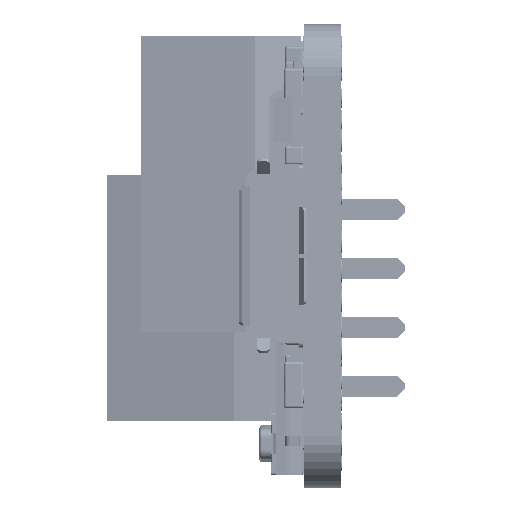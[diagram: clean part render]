
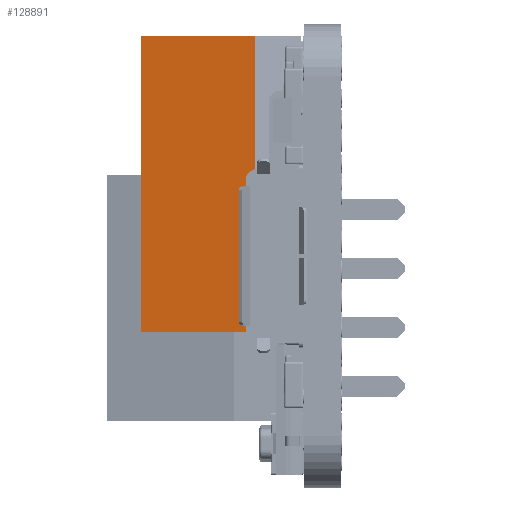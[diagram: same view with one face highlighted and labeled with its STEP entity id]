
A CAD part, left-side view. The second image highlights one B-rep face of the part: STEP entity #128891.
In plain terms, the highlighted planar face has unit normal (-0.991, 0.132, 0).
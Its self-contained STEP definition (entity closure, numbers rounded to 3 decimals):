
#26547 = AXIS2_PLACEMENT_3D ( 'NONE', #122473, #122475, #122477 ) ;
#114338 = LINE ( 'NONE', #117608, #114341 ) ;
#114341 = VECTOR ( 'NONE', #117612, 1000. ) ;
#117608 = CARTESIAN_POINT ( 'NONE',  ( -4.7, 7., -6.375 ) ) ;
#117612 = DIRECTION ( 'NONE',  ( 0., 0., 1. ) ) ;
#121564 = FACE_OUTER_BOUND ( 'NONE', #202815, .T. ) ;
#122471 = PLANE ( 'NONE',  #26547 ) ;
#122473 = CARTESIAN_POINT ( 'NONE',  ( -5.35, 2.1, -6.375 ) ) ;
#122475 = DIRECTION ( 'NONE',  ( -0.991, 0.132, 0. ) ) ;
#122477 = DIRECTION ( 'NONE',  ( -0.132, -0.991, 0. ) ) ;
#128891 = ADVANCED_FACE ( 'NONE', ( #121564 ), #122471, .T. ) ;
#152268 = CARTESIAN_POINT ( 'NONE',  ( -5.35, 2.1, -6.375 ) ) ;
#152270 = DIRECTION ( 'NONE',  ( 0., 0., 1. ) ) ;
#152445 = CARTESIAN_POINT ( 'NONE',  ( -5.35, 2.1, 6.375 ) ) ;
#152446 = DIRECTION ( 'NONE',  ( -0.132, -0.991, 0. ) ) ;
#152464 = CARTESIAN_POINT ( 'NONE',  ( -5.35, 2.1, -6.375 ) ) ;
#152465 = DIRECTION ( 'NONE',  ( -0.132, -0.991, 0. ) ) ;
#153711 = LINE ( 'NONE', #152268, #153712 ) ;
#153712 = VECTOR ( 'NONE', #152270, 1000. ) ;
#153770 = LINE ( 'NONE', #152445, #153771 ) ;
#153771 = VECTOR ( 'NONE', #152446, 1000. ) ;
#153777 = LINE ( 'NONE', #152464, #153778 ) ;
#153778 = VECTOR ( 'NONE', #152465, 1000. ) ;
#168643 = ORIENTED_EDGE ( 'NONE', *, *, #258983, .T. ) ;
#168647 = ORIENTED_EDGE ( 'NONE', *, *, #259020, .F. ) ;
#168653 = ORIENTED_EDGE ( 'NONE', *, *, #258172, .F. ) ;
#168658 = ORIENTED_EDGE ( 'NONE', *, *, #259025, .T. ) ;
#202815 = EDGE_LOOP ( 'NONE', ( #168643, #168647, #168653, #168658 ) ) ;
#216040 = VERTEX_POINT ( 'NONE', #229101 ) ;
#216042 = VERTEX_POINT ( 'NONE', #229106 ) ;
#216388 = VERTEX_POINT ( 'NONE', #232338 ) ;
#216390 = VERTEX_POINT ( 'NONE', #232341 ) ;
#229101 = CARTESIAN_POINT ( 'NONE',  ( -4.7, 7., -6.375 ) ) ;
#229106 = CARTESIAN_POINT ( 'NONE',  ( -4.7, 7., 6.375 ) ) ;
#232338 = CARTESIAN_POINT ( 'NONE',  ( -5.35, 2.1, 6.375 ) ) ;
#232341 = CARTESIAN_POINT ( 'NONE',  ( -5.35, 2.1, -6.375 ) ) ;
#258172 = EDGE_CURVE ( 'NONE', #216040, #216042, #114338, .T. ) ;
#258983 = EDGE_CURVE ( 'NONE', #216390, #216388, #153711, .T. ) ;
#259020 = EDGE_CURVE ( 'NONE', #216042, #216388, #153770, .T. ) ;
#259025 = EDGE_CURVE ( 'NONE', #216040, #216390, #153777, .T. ) ;
